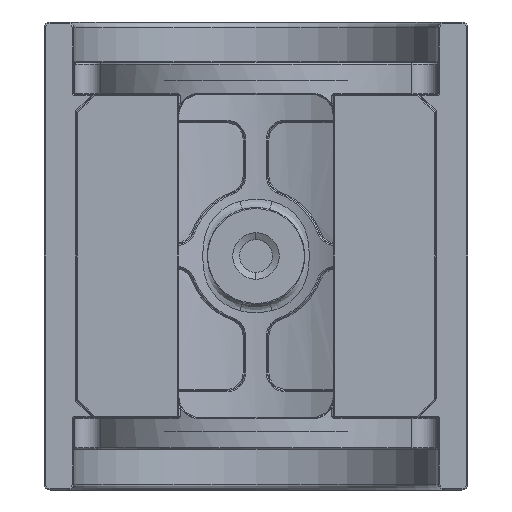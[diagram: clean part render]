
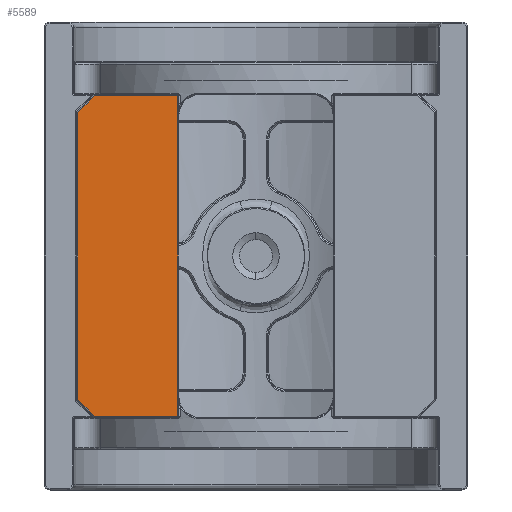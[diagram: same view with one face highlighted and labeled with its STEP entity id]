
A CAD part, front view. The second image highlights one B-rep face of the part: STEP entity #5589.
In plain terms, the highlighted planar face has unit normal (0, -1, 0).
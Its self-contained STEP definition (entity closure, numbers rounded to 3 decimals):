
#126 = CARTESIAN_POINT ( 'NONE',  ( -15.25, -30., 13.8 ) ) ;
#425 = CARTESIAN_POINT ( 'NONE',  ( -6.7, -30., 13.7 ) ) ;
#978 = CARTESIAN_POINT ( 'NONE',  ( -15.6, -30., -13.7 ) ) ;
#1693 = VERTEX_POINT ( 'NONE', #425 ) ;
#2122 = PLANE ( 'NONE',  #12381 ) ;
#2340 = CARTESIAN_POINT ( 'NONE',  ( -13.809, -30., -13.7 ) ) ;
#3044 = CARTESIAN_POINT ( 'NONE',  ( -13.809, -30., 13.7 ) ) ;
#3452 = DIRECTION ( 'NONE',  ( 0., 0., 1. ) ) ;
#4220 = CARTESIAN_POINT ( 'NONE',  ( -15.25, -30., -12.259 ) ) ;
#5121 = VECTOR ( 'NONE', #12359, 1000. ) ;
#5519 = VERTEX_POINT ( 'NONE', #17593 ) ;
#5589 = ADVANCED_FACE ( 'NONE', ( #11977 ), #2122, .F. ) ;
#5670 = CARTESIAN_POINT ( 'NONE',  ( -13.779, -30., -13.729 ) ) ;
#5779 = EDGE_CURVE ( 'NONE', #9008, #5519, #17102, .T. ) ;
#5839 = ORIENTED_EDGE ( 'NONE', *, *, #9000, .T. ) ;
#6412 = VECTOR ( 'NONE', #11458, 1000. ) ;
#6756 = VERTEX_POINT ( 'NONE', #3044 ) ;
#6798 = LINE ( 'NONE', #10169, #14673 ) ;
#7455 = EDGE_LOOP ( 'NONE', ( #17655, #18196, #9236, #5839, #17439, #12425 ) ) ;
#7945 = CARTESIAN_POINT ( 'NONE',  ( -13.85, -30., 13.7 ) ) ;
#8911 = LINE ( 'NONE', #16313, #16003 ) ;
#9000 = EDGE_CURVE ( 'NONE', #1693, #6756, #12392, .T. ) ;
#9008 = VERTEX_POINT ( 'NONE', #2340 ) ;
#9236 = ORIENTED_EDGE ( 'NONE', *, *, #9925, .T. ) ;
#9925 = EDGE_CURVE ( 'NONE', #5519, #1693, #8911, .T. ) ;
#10169 = CARTESIAN_POINT ( 'NONE',  ( -14.654, -30., 12.854 ) ) ;
#10698 = EDGE_CURVE ( 'NONE', #15859, #13042, #14469, .T. ) ;
#10837 = CARTESIAN_POINT ( 'NONE',  ( -15.6, -30., 13.8 ) ) ;
#11009 = CARTESIAN_POINT ( 'NONE',  ( -15.25, -30., 12.259 ) ) ;
#11458 = DIRECTION ( 'NONE',  ( 0.707, 0., -0.707 ) ) ;
#11501 = VECTOR ( 'NONE', #16067, 1000. ) ;
#11977 = FACE_OUTER_BOUND ( 'NONE', #7455, .T. ) ;
#12359 = DIRECTION ( 'NONE',  ( 1., 0., 0. ) ) ;
#12381 = AXIS2_PLACEMENT_3D ( 'NONE', #10837, #16345, #3452 ) ;
#12392 = LINE ( 'NONE', #7945, #12960 ) ;
#12425 = ORIENTED_EDGE ( 'NONE', *, *, #10698, .T. ) ;
#12960 = VECTOR ( 'NONE', #16662, 1000. ) ;
#13042 = VERTEX_POINT ( 'NONE', #4220 ) ;
#13205 = DIRECTION ( 'NONE',  ( -0.707, 0., -0.707 ) ) ;
#13995 = EDGE_CURVE ( 'NONE', #13042, #9008, #18670, .T. ) ;
#14469 = LINE ( 'NONE', #126, #11501 ) ;
#14673 = VECTOR ( 'NONE', #13205, 1000. ) ;
#14706 = DIRECTION ( 'NONE',  ( 0., 0., 1. ) ) ;
#15859 = VERTEX_POINT ( 'NONE', #11009 ) ;
#16003 = VECTOR ( 'NONE', #14706, 1000. ) ;
#16067 = DIRECTION ( 'NONE',  ( 0., 0., -1. ) ) ;
#16313 = CARTESIAN_POINT ( 'NONE',  ( -6.7, -30., 13.8 ) ) ;
#16345 = DIRECTION ( 'NONE',  ( 0., 1., 0. ) ) ;
#16662 = DIRECTION ( 'NONE',  ( -1., 0., 0. ) ) ;
#17102 = LINE ( 'NONE', #978, #5121 ) ;
#17370 = EDGE_CURVE ( 'NONE', #6756, #15859, #6798, .T. ) ;
#17439 = ORIENTED_EDGE ( 'NONE', *, *, #17370, .T. ) ;
#17593 = CARTESIAN_POINT ( 'NONE',  ( -6.7, -30., -13.7 ) ) ;
#17655 = ORIENTED_EDGE ( 'NONE', *, *, #13995, .T. ) ;
#18196 = ORIENTED_EDGE ( 'NONE', *, *, #5779, .T. ) ;
#18670 = LINE ( 'NONE', #5670, #6412 ) ;
